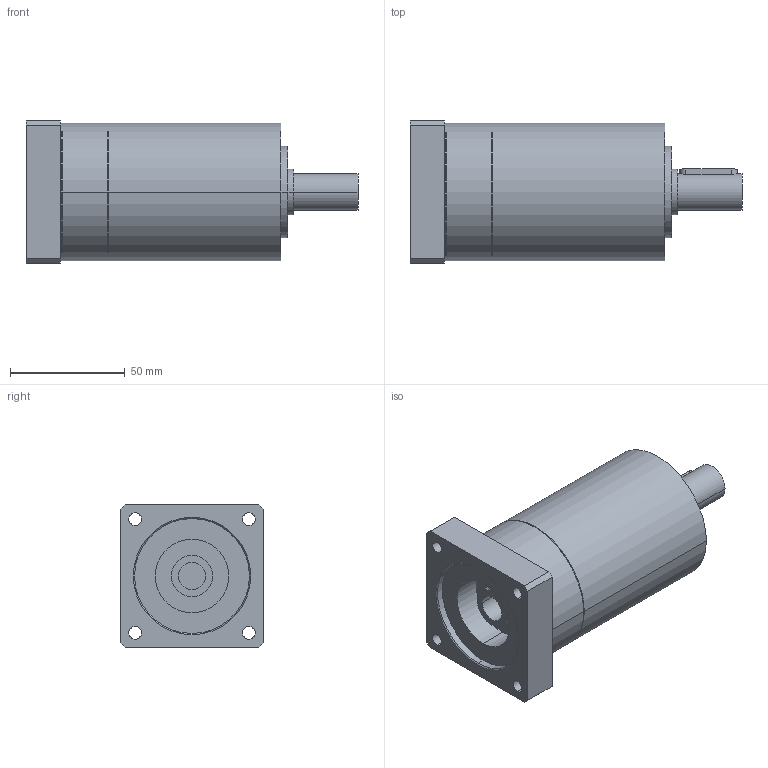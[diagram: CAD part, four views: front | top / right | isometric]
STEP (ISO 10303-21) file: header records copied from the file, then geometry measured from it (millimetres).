
FILE_DESCRIPTION(('CoCreate Modeling STEP Export'),'2;1');
FILE_NAME('GPR75_ig-9-12-16-20-24-30-36_16_B14_12_P23.stp','2014-08-25T16:32:48',(''),(''),'CoCreate Modeling STEP processor for AP214 (Solid Model)','CoCreate Modeling 16.00C 25-Feb-2009 (C) Parametric Technology GmbH','');
FILE_SCHEMA(('AUTOMOTIVE_DESIGN { 1 0 10303 214 1 1 1 1 }'));
Length unit declared in the file: millimetre
Products named in the file (2): GPR75_ig-9-12-16-20-24-30-36_16_B14_12_P23
Assembly tree (1 placements, depth 2):
  GPR75_ig-9-12-16-20-24-30-36_16_B14_12_P23
    GPR75_ig-9-12-16-20-24-30-36_16_B14_12_P23
Bounding box: 144.4 x 62 x 62 mm (x, y, z)
Volume: 318615.5 mm3; surface area: 36432.2 mm2
Topology: 1 solids, 1 shells, 75 faces, 197 edges, 137 vertices
Faces by surface type: cylinder 44, plane 23, cone 8
Entity records: 2039 total; most frequent: ORIENTED_EDGE 390, CARTESIAN_POINT 375, DIRECTION 278, EDGE_CURVE 195, VERTEX_POINT 137, AXIS2_PLACEMENT_3D 104, EDGE_LOOP 98, FACE_OUTER_BOUND 75
